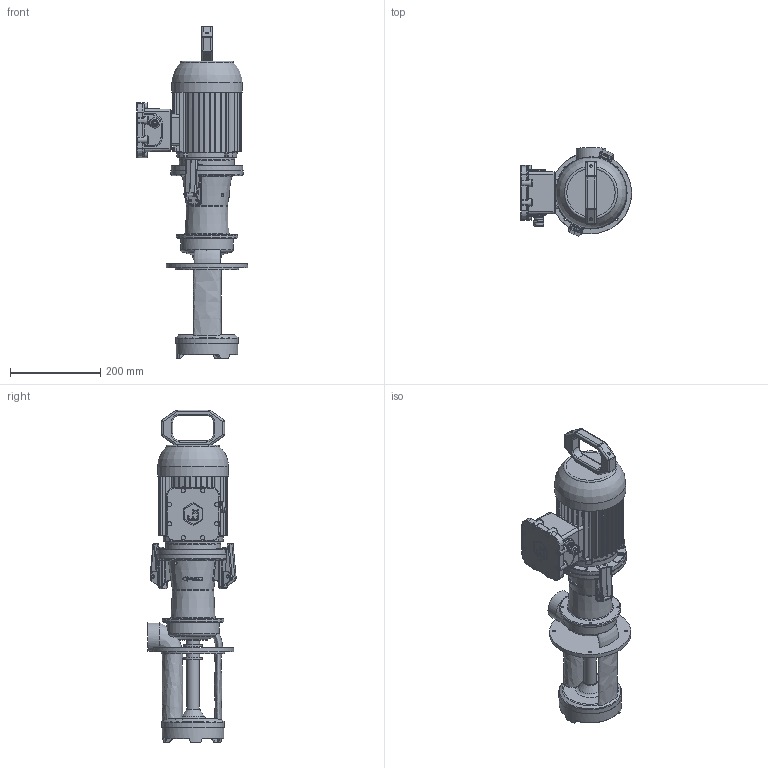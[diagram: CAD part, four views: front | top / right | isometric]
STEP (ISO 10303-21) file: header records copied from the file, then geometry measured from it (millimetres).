
FILE_DESCRIPTION(/* description */ ('Unknown'),/* implementation_level */ '2;1');
FILE_NAME(/* name */ 'EP EX 350-200',/* time_stamp */ '2025-06-02T13:12:00+03:00',/* author */ ('Unknown'),/* organization */ ('Unknown'),/* preprocessor_version */ 'ST-DEVELOPER v16.7',/* originating_system */ 'DEX',/* authorisation */ $);
FILE_SCHEMA (('AUTOMOTIVE_DESIGN {1 0 10303 214 3 1 1}'));
Length unit declared in the file: millimetre
Products named in the file (1): EP EX 350-200
Bounding box: 246.5 x 195.43 x 736.45 mm (x, y, z)
Volume: 7507499.1 mm3; surface area: 695928.7 mm2
Topology: 1 solids, 22 shells, 2297 faces, 6059 edges, 3780 vertices
Faces by surface type: cylinder 802, plane 730, bspline 404, torus 201, cone 113, sphere 47
Full cylindrical faces by diameter (mm): 3 x12, 3.242 x16, 4 x10, 4.134 x24, 4.9 x4, 5 x90, 5.3 x4, 5.5 x2, 5.7 x8, 6 x8, 7 x8, 8 x3, 9.5 x8, 12 x1, 13 x2, 13.962 x1, 16 x1, 18.348 x1, 18.376 x5, 19 x1, 20 x2, 21.8 x2, 28 x1, 29 x3, 30 x1, 42 x3, 44 x1, 48 x1, 62 x1, 73 x1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
Entity records: 109777 total; most frequent: CARTESIAN_POINT 43445, ORIENTED_EDGE 10866, DIRECTION 9982, EDGE_CURVE 5433, AXIS2_PLACEMENT_3D 4017, VERTEX_POINT 3586, FACE_BOUND 2697, EDGE_LOOP 2689
